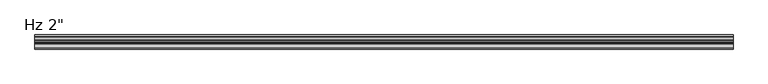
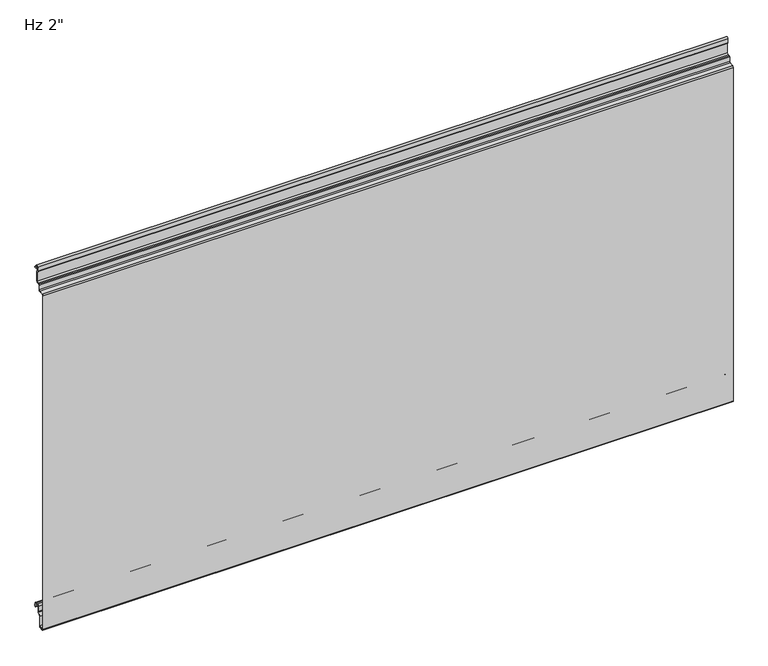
"""IFC4 building model written with IfcOpenShell, lengths in millimetres: plate geometry."""

from ifc_helpers import new_model, si_unit, point, frame, frame_2d, origin, place, context, project, spatial, polyline, circle_curve, trimmed, segment, composite_curve, outline, extrude, source, transform, mapped, element, save


def plate_0513d823(model_context):
    return source(origin(), model_context, "Body", "SweptSolid", [
        extrude(outline(composite_curve([segment(trimmed(circle_curve(frame_2d((-47.2296795, -32.4521105)), 3.5702393), [point((-46.9184091, -36.0087549))], [point((-50.7999188, -32.4521083))], False, "CARTESIAN"), True, "CONTINUOUS"), segment(polyline([(-50.7999188, -32.4521083), (-50.7994418, 713.5384307)]), True, "CONTINUOUS"), segment(trimmed(circle_curve(frame_2d((-47.8494477, 713.5384288)), 2.9499941), [point((-50.7994418, 713.5384307))], [point((-48.1065566, 716.4771973))], False, "CARTESIAN"), True, "CONTINUOUS"), segment(polyline([(-48.1065566, 716.4771973), (-39.642179, 717.2177344)]), True, "CONTINUOUS"), segment(trimmed(circle_curve(frame_2d((-39.8191048, 719.2400056)), 2.0299959), [point((-39.642179, 717.2177344))], [point((-37.7917189, 719.3429135))], True, "CARTESIAN"), True, "CONTINUOUS"), segment(polyline([(-37.7917189, 719.3429135), (-37.7917189, 729.458279)]), True, "CONTINUOUS"), segment(trimmed(circle_curve(frame_2d((-35.8425659, 729.4595944)), 1.9491534), [point((-37.7917189, 729.458279))], [point((-35.8425659, 731.4087478))], False, "CARTESIAN"), True, "CONTINUOUS"), segment(polyline([(-35.8425659, 731.4087478), (-32.7011658, 731.4087475)]), True, "CONTINUOUS"), segment(trimmed(circle_curve(frame_2d((-32.7011658, 734.4087415)), 2.999994), [point((-32.7011658, 731.4087475))], [point((-29.7011718, 734.4087415))], True, "CARTESIAN"), True, "CONTINUOUS"), segment(polyline([(-29.7011718, 734.4087415), (-29.7011718, 755.0122013), (-30.9470159, 755.7314897)]), True, "CONTINUOUS"), segment(trimmed(circle_curve(frame_2d((-30.2220173, 756.987224)), 1.4499971), [point((-30.9470159, 755.7314897))], [point((-31.6712455, 757.0344401))], False, "CARTESIAN"), True, "CONTINUOUS"), segment(polyline([(-31.6712455, 757.0344401), (-31.3263372, 765.7463704)]), True, "CONTINUOUS"), segment(trimmed(circle_curve(frame_2d((-28.2268913, 765.6236622)), 3.1018739), [point((-31.3263372, 765.7463704))], [point((-25.1277704, 765.7543204))], False, "CARTESIAN"), True, "CONTINUOUS"), segment(polyline([(-25.1277704, 765.7543204), (-24.8839836, 761.7587)]), True, "CONTINUOUS"), segment(trimmed(circle_curve(frame_2d((-24.0437539, 761.8099653)), 0.8417922), [point((-24.8839836, 761.7587))], [point((-24.0732011, 760.9686884))], True, "CARTESIAN"), True, "CONTINUOUS"), segment(polyline([(-24.0732011, 760.9686884), (-21.3027683, 760.9686884), (-21.3027683, 759.9686884), (-24.0873149, 759.9686884)]), True, "CONTINUOUS"), segment(trimmed(circle_curve(frame_2d((-24.0437539, 761.8099653)), 1.8417922), [point((-24.0873149, 759.9686884))], [point((-25.8821274, 761.6977997))], False, "CARTESIAN"), True, "CONTINUOUS"), segment(polyline([(-25.8821274, 761.6977997), (-26.1265424, 765.7037148)]), True, "CONTINUOUS"), segment(trimmed(circle_curve(frame_2d((-28.2268913, 765.6236622)), 2.1018739), [point((-26.1265424, 765.7037148))], [point((-30.3271199, 765.706811))], True, "CARTESIAN"), True, "CONTINUOUS"), segment(polyline([(-30.3271199, 765.706811), (-30.6823803, 756.7334028), (-28.7011718, 755.5895515), (-28.7011718, 734.4087415)]), True, "CONTINUOUS"), segment(trimmed(circle_curve(frame_2d((-32.7011658, 734.4087415)), 3.999994), [point((-28.7011718, 734.4087415))], [point((-32.7011658, 730.4087475))], False, "CARTESIAN"), True, "CONTINUOUS"), segment(polyline([(-32.7011658, 730.4087475), (-35.8425659, 730.4087475)]), True, "CONTINUOUS"), segment(trimmed(circle_curve(frame_2d((-35.8425659, 729.4595944)), 0.9491534), [point((-35.8425659, 730.4087475))], [point((-36.7917189, 729.4586765))], True, "CARTESIAN"), True, "CONTINUOUS"), segment(polyline([(-36.7917189, 729.4586765), (-36.7917189, 719.3657441)]), True, "CONTINUOUS"), segment(trimmed(circle_curve(frame_2d((-39.8191048, 719.2400056)), 3.0299959), [point((-36.7917189, 719.3657441))], [point((-39.5550232, 716.2215397))], False, "CARTESIAN"), True, "CONTINUOUS"), segment(polyline([(-39.5550232, 716.2215397), (-48.0193197, 715.4810097)]), True, "CONTINUOUS"), segment(trimmed(circle_curve(frame_2d((-47.8493665, 713.5384359)), 1.9499941), [point((-48.0193197, 715.4810097))], [point((-49.7993606, 713.5384359))], True, "CARTESIAN"), True, "CONTINUOUS"), segment(polyline([(-49.7993606, 713.5384359), (-49.7993606, -32.509446)]), True, "CONTINUOUS"), segment(trimmed(circle_curve(frame_2d((-47.2297607, -32.4521176)), 2.5702393), [point((-49.7993606, -32.509446))], [point((-47.0056751, -35.0125699))], True, "CARTESIAN"), True, "CONTINUOUS"), segment(polyline([(-47.0056751, -35.0125699), (-42.0238542, -34.5765709)]), True, "CONTINUOUS"), segment(trimmed(circle_curve(frame_2d((-42.5052448, -31.9198392)), 2.6999926), [point((-42.0238542, -34.5765709))], [point((-39.8052522, -31.9198392))], True, "CARTESIAN"), True, "CONTINUOUS"), segment(polyline([(-39.8052522, -31.9198392), (-39.8052522, -9.8247096), (-34.3031811, -4.3226385)]), True, "CONTINUOUS"), segment(trimmed(circle_curve(frame_2d((-35.5052588, -3.1205608)), 1.6999946), [point((-34.3031811, -4.3226385))], [point((-33.8052642, -3.1205608))], True, "CARTESIAN"), True, "CONTINUOUS"), segment(polyline([(-33.8052642, -3.1205608), (-33.8052642, 8.6903283)]), True, "CONTINUOUS"), segment(trimmed(circle_curve(frame_2d((-30.4552689, 8.6903283)), 3.3499953), [point((-33.8052642, 8.6903283))], [point((-30.4552689, 12.0403236))], False, "CARTESIAN"), True, "CONTINUOUS"), segment(polyline([(-30.4552689, 12.0403236), (-26.0552777, 12.0403236)]), True, "CONTINUOUS"), segment(trimmed(circle_curve(frame_2d((-26.0552777, 8.6903283)), 3.3499953), [point((-26.0552777, 12.0403236))], [point((-22.7052824, 8.6903283))], False, "CARTESIAN"), True, "CONTINUOUS"), segment(polyline([(-22.7052824, 8.6903283), (-22.7052824, 5.9912173), (-21.3068035, 5.9912173), (-21.3068035, 2.2328239)]), True, "CONTINUOUS"), segment(trimmed(circle_curve(frame_2d((-22.5068002, 2.2313092)), 1.1999976), [point((-21.3068035, 2.2328239))], [point((-22.4762782, 1.0316999))], False, "CARTESIAN"), True, "CONTINUOUS"), segment(trimmed(circle_curve(frame_2d((-22.5068002, 2.2313092)), 1.1999976), [point((-22.4762782, 1.0316999))], [point((-23.7052824, 2.1710221))], False, "CARTESIAN"), True, "CONTINUOUS"), segment(polyline([(-23.7052824, 2.1710221), (-23.7052824, 8.6903283)]), True, "CONTINUOUS"), segment(trimmed(circle_curve(frame_2d((-26.0552777, 8.6903283)), 2.3499953), [point((-23.7052824, 8.6903283))], [point((-26.0552777, 11.0403236))], True, "CARTESIAN"), True, "CONTINUOUS"), segment(polyline([(-26.0552777, 11.0403236), (-30.4552689, 11.0403236)]), True, "CONTINUOUS"), segment(trimmed(circle_curve(frame_2d((-30.4552689, 8.6903283)), 2.3499953), [point((-30.4552689, 11.0403236))], [point((-32.8052642, 8.6903283))], True, "CARTESIAN"), True, "CONTINUOUS"), segment(polyline([(-32.8052642, 8.6903283), (-32.8052642, -3.1205608)]), True, "CONTINUOUS"), segment(trimmed(circle_curve(frame_2d((-35.5052588, -3.1205608)), 2.6999946), [point((-32.8052642, -3.1205608))], [point((-33.5960743, -5.0297453))], False, "CARTESIAN"), True, "CONTINUOUS"), segment(polyline([(-33.5960743, -5.0297453), (-38.4244918, -9.8581627)]), True, "CONTINUOUS"), segment(trimmed(circle_curve(frame_2d((-37.5052548, -10.7773997)), 1.2999974), [point((-38.4244918, -9.8581627))], [point((-38.8052522, -10.7773997))], True, "CARTESIAN"), True, "CONTINUOUS"), segment(polyline([(-38.8052522, -10.7773997), (-38.8052522, -31.9198392)]), True, "CONTINUOUS"), segment(trimmed(circle_curve(frame_2d((-42.5052448, -31.9198392)), 3.6999926), [point((-38.8052522, -31.9198392))], [point((-41.8944437, -35.5690675))], False, "CARTESIAN"), True, "CONTINUOUS"), segment(polyline([(-41.8944437, -35.5690675), (-46.9184091, -36.0087549)]), True, "CONTINUOUS")], self_intersect=False)), frame((-730.0, 0.0, 0.0), z_axis=(1.0, 0.0, 0.0), x_axis=(0.0, 1.0, 0.0)), (0.0, 0.0, 1.0), 1460.0),
    ])


if __name__ == "__main__":
    model = new_model("IFC4")
    model_context = context("Model", 3, world=origin())
    ifc_project = project(units=[si_unit("LENGTHUNIT", "METRE", prefix="MILLI")], contexts=[model_context])
    site = spatial("IfcSite", under=ifc_project)
    building = spatial("IfcBuilding", under=site)
    placement = place(None, origin())
    plate_shape = plate_0513d823(model_context)
    element("IfcPlate", 1, ObjectType="KIP-30-Karrier-KP-R19-CP-Hz-FL3-8in_SL : Hz 2\"", at=placement, inside=building, context=model_context, shape_type="MappedRepresentation", body=[
        mapped(plate_shape, transform((0.0, 0.0, 0.0), x_axis=(1.0, 0.0, 0.0), y_axis=(0.0, 1.0, 0.0), z_axis=(0.0, 0.0, 1.0))),
    ])
    save(model, "model.ifc")
